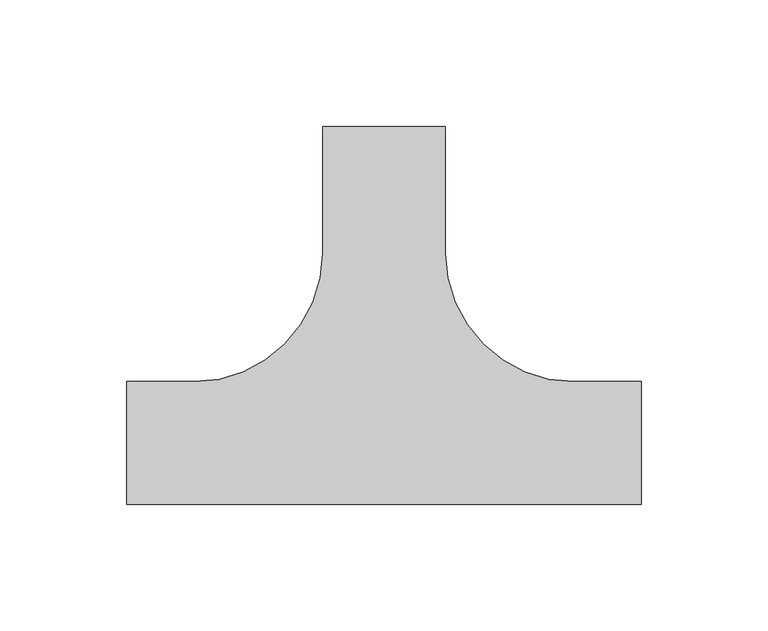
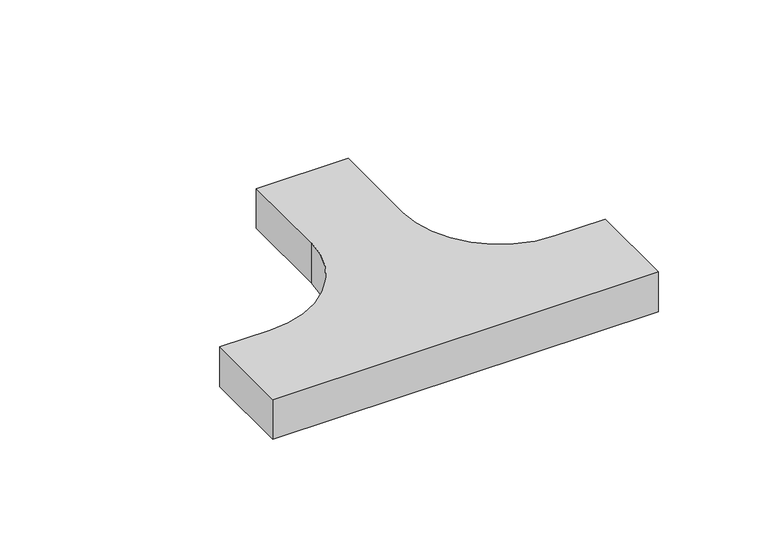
"""IFC4 building model written with IfcOpenShell, lengths in millimetres: proxy geometry, Tee-2400_Series-Wiremold : Radiused Fog White."""

from ifc_helpers import new_model, si_unit, point, frame_2d, origin, origin_with_axes, place, context, project, spatial, polyline, circle_curve, trimmed, segment, composite_curve, outline, extrude, source, transform, mapped, element, save


def electrical_fixtures_6f6b49fb(model_context):
    return source(origin(), model_context, "Body", "SweptSolid", [
        extrude(outline(composite_curve([segment(polyline([(24.209375, 125.015625), (24.209375, 75.009375)]), True, "CONTINUOUS"), segment(trimmed(circle_curve(frame_2d((75.009375, 75.009375)), 50.8), [point((24.209375, 75.009375))], [point((75.009375, 24.209375))], True, "CARTESIAN"), True, "CONTINUOUS"), segment(polyline([(75.009375, 24.209375), (101.6, 24.209375), (101.6, -24.209375), (-101.6, -24.209375), (-101.6, 24.209375), (-75.009375, 24.209375)]), True, "CONTINUOUS"), segment(trimmed(circle_curve(frame_2d((-75.009375, 75.009375)), 50.8), [point((-75.009375, 24.209375))], [point((-24.209375, 75.009375))], True, "CARTESIAN"), True, "CONTINUOUS"), segment(polyline([(-24.209375, 75.009375), (-24.209375, 125.015625), (24.209375, 125.015625)]), True, "CONTINUOUS")], self_intersect=False)), origin_with_axes(), (0.0, 0.0, 1.0), 22.225),
    ])


if __name__ == "__main__":
    model = new_model("IFC4")
    model_context = context("Model", 3, world=origin())
    ifc_project = project(units=[si_unit("LENGTHUNIT", "METRE", prefix="MILLI")], contexts=[model_context])
    site = spatial("IfcSite", under=ifc_project)
    building = spatial("IfcBuilding", under=site)
    placement = place(None, origin())
    electrical_fixtures_shape = electrical_fixtures_6f6b49fb(model_context)
    element("IfcBuildingElementProxy", 1, Name="Tee-2400_Series-Wiremold : Radiused Fog White", ObjectType="Tee-2400_Series-Wiremold : Radiused Fog White", at=placement, inside=building, context=model_context, shape_type="MappedRepresentation", body=[
        mapped(electrical_fixtures_shape, transform((0.0, 0.0, 0.0), x_axis=(1.0, 0.0, 0.0), y_axis=(0.0, 1.0, 0.0), z_axis=(0.0, 0.0, 1.0))),
    ])
    save(model, "model.ifc")
